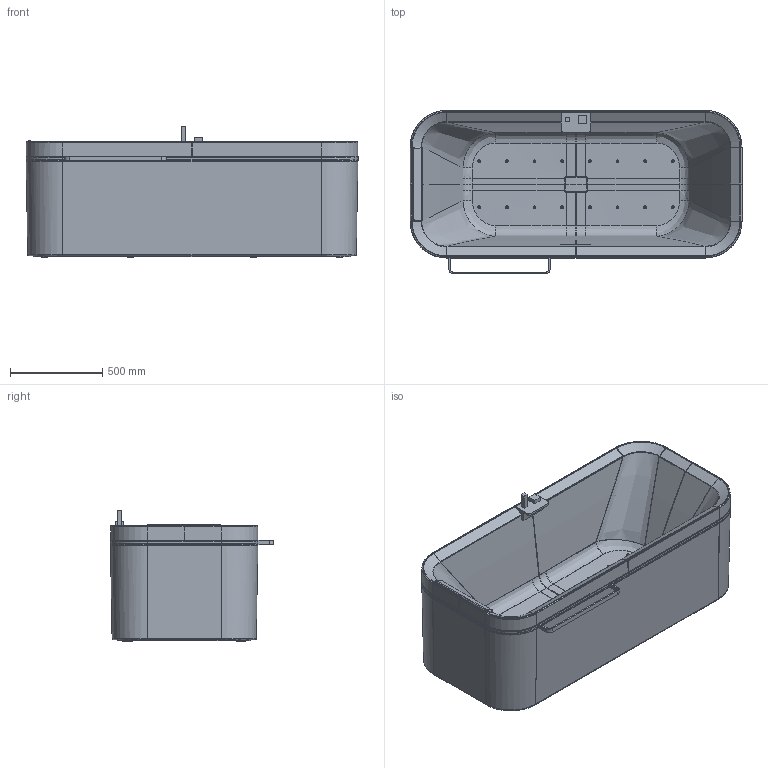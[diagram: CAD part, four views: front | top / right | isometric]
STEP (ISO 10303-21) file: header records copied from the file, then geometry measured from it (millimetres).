
FILE_DESCRIPTION(('STEP AP203'),'2;1');
FILE_NAME('DIVY1808CO2.stp','2017-07-25T11:03:27',(''),(''),'2016.1.120','THINKDESIGN','');
FILE_SCHEMA(('CONFIG_CONTROL_DESIGN'));
Length unit declared in the file: millimetre
Products named in the file (1): top
Bounding box: 1801.03 x 886.03 x 713 mm (x, y, z)
Volume: 18007478.2 mm3; surface area: 12642905.3 mm2
Topology: 26 solids, 26 shells, 1396 faces, 3461 edges, 2108 vertices
Faces by surface type: cylinder 527, plane 472, bspline 397
Entity records: 59316 total; most frequent: CARTESIAN_POINT 28034, ORIENTED_EDGE 6902, DIRECTION 5897, EDGE_CURVE 3451, VERTEX_POINT 2108, AXIS2_PLACEMENT_3D 2072, VECTOR 1753, LINE 1753
